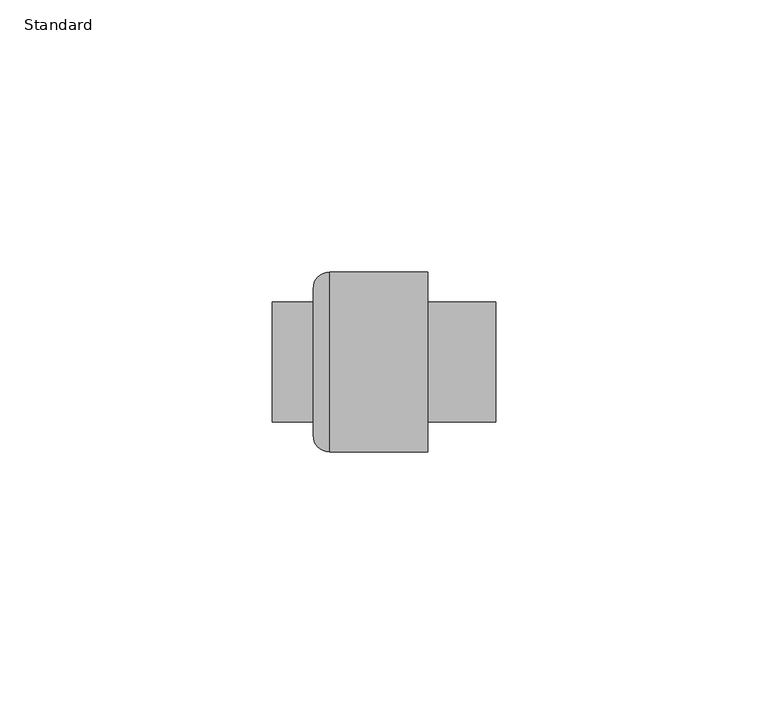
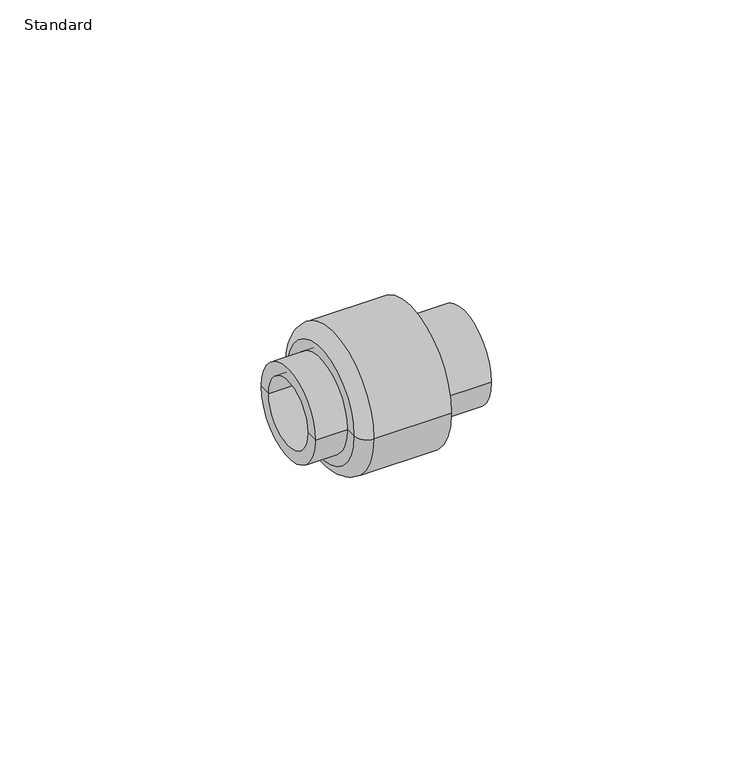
"""IFC4 building model written with IfcOpenShell, lengths in millimetres: pipe fitting geometry, Durapipe_PipeFitting_PVC_SocketUnions : Standard."""

from ifc_helpers import new_model, si_unit, point, frame, origin, place, context, project, spatial, polyline, circle_curve, ellipse_curve, trimmed, source, transform, mapped, element, save
from ifc_brep_helpers import plane_surface, cylinder_surface, revolved_surface, advanced_brep


def standard_c68ea25f(model_context):
    return source(origin(), model_context, "Body", "AdvancedBrep", [
        advanced_brep(
        [(-9.0, -11.0, 0.0), (-9.0, 11.0, 0.0), (-9.0, 13.5, 0.0), (-9.0, -13.5, 0.0), (12.0, -16.5, 0.0), (12.0, 16.5, 0.0), (12.0, 11.0, 0.0), (12.0, -11.0, 0.0), (-6.0, -16.5, 0.0), (-6.0, 16.5, 0.0)],
        [
            (0, 1, circle_curve(frame((-9.0, 0.0, 0.0), z_axis=(1.0, 0.0, 0.0), x_axis=(0.0, 1.0, 0.0)), 11.0)),
            (1, 2),
            (2, 3, circle_curve(frame((-9.0, 0.0, 0.0), z_axis=(-1.0, 0.0, 0.0), x_axis=(0.0, 1.0, 0.0)), 13.5)),
            (3, 0),
            (1, 0, circle_curve(frame((-9.0, 0.0, 0.0), z_axis=(1.0, 0.0, 0.0), x_axis=(0.0, 1.0, 0.0)), 11.0)),
            (3, 2, circle_curve(frame((-9.0, 0.0, 0.0), z_axis=(-1.0, 0.0, 0.0), x_axis=(0.0, 1.0, 0.0)), 13.5)),
            (4, 5, circle_curve(frame((12.0, 0.0, 0.0), z_axis=(1.0, 0.0, 0.0), x_axis=(0.0, 1.0, 0.0)), 16.5)),
            (5, 6),
            (6, 7, circle_curve(frame((12.0, 0.0, 0.0), z_axis=(-1.0, 0.0, 0.0), x_axis=(0.0, 1.0, 0.0)), 11.0)),
            (7, 4),
            (5, 4, circle_curve(frame((12.0, 0.0, 0.0), z_axis=(1.0, 0.0, 0.0), x_axis=(0.0, 1.0, 0.0)), 16.5)),
            (7, 6, circle_curve(frame((12.0, 0.0, 0.0), z_axis=(-1.0, 0.0, 0.0), x_axis=(0.0, 1.0, 0.0)), 11.0)),
            (8, 9, circle_curve(frame((-6.0, 0.0, 0.0), z_axis=(1.0, 0.0, 0.0), x_axis=(0.0, 1.0, 0.0)), 16.5)),
            (9, 5),
            (4, 8),
            (9, 8, circle_curve(frame((-6.0, 0.0, 0.0), z_axis=(1.0, 0.0, 0.0), x_axis=(0.0, 1.0, 0.0)), 16.5)),
            (2, 9, circle_curve(frame((-6.0, 13.5, 0.0), z_axis=(0.0, 0.0, -1.0), x_axis=(1.0, 0.0, 0.0)), 3.0)),
            (8, 3, circle_curve(frame((-6.0, -13.5, 0.0), z_axis=(0.0, 0.0, -1.0), x_axis=(1.0, 0.0, 0.0)), 3.0)),
            (6, 1),
            (0, 7),
        ],
        [
            plane_surface(frame((-9.0, 0.0, 0.0), z_axis=(-1.0, 0.0, 0.0), x_axis=(0.0, 1.0, 0.0))),
            plane_surface(frame((12.0, 0.0, 0.0), z_axis=(1.0, 0.0, 0.0), x_axis=(0.0, 1.0, 0.0))),
            cylinder_surface(frame((2000.0, 0.0, 0.0), z_axis=(-1.0, 0.0, 0.0), x_axis=(0.0, 1.0, 0.0)), 16.5),
            revolved_surface(trimmed(ellipse_curve(frame((-6.0, 13.5, 0.0), z_axis=(0.0, 0.0, 1.0), x_axis=(1.0, 0.0, 0.0)), 3.0, 3.0), [point((-6.0, 16.5, 0.0))], [point((-9.0, 13.5, 0.0))], True, "CARTESIAN"), (2000.0, 0.0, 0.0), (-1.0, 0.0, 0.0)),
            revolved_surface(polyline([(-9.0, 11.0, 0.0), (12.0, 11.0, 0.0)]), (2000.0, 0.0, 0.0), (-1.0, 0.0, 0.0)),
        ],
        [
            (0, [[1, 2, 3, 4]]),
            (0, [[5, -4, 6, -2]]),
            (1, [[7, 8, 9, 10]]),
            (1, [[11, -10, 12, -8]]),
            (2, [[13, 14, -7, 15]]),
            (2, [[16, -15, -11, -14]]),
            (3, [[-3, 17, -13, 18]]),
            (3, [[-6, -18, -16, -17]]),
            (4, [[-9, 19, -1, 20]]),
            (4, [[-12, -20, -5, -19]]),
        ],
    ),
        advanced_brep(
        [(-2.5, -8.0, 0.0), (-2.5, 8.0, 0.0), (-16.5, 8.0, 0.0), (-16.5, -8.0, 0.0), (-2.5, 0.0, 0.0), (10.5, -8.0, 0.0), (10.5, 8.0, 0.0), (10.5, 0.0, 0.0), (-16.5, -11.0, 0.0), (-16.5, 11.0, 0.0), (24.5, 11.0, 0.0), (24.5, -11.0, 0.0), (24.5, -8.0, 0.0), (24.5, 8.0, 0.0)],
        [
            (0, 1, circle_curve(frame((-2.5, 0.0, 0.0), z_axis=(1.0, 0.0, 0.0), x_axis=(0.0, 1.0, 0.0)), 8.0)),
            (1, 2),
            (2, 3, circle_curve(frame((-16.5, 0.0, 0.0), z_axis=(-1.0, 0.0, 0.0), x_axis=(0.0, 1.0, 0.0)), 8.0)),
            (3, 0),
            (1, 0, circle_curve(frame((-2.5, 0.0, 0.0), z_axis=(1.0, 0.0, 0.0), x_axis=(0.0, 1.0, 0.0)), 8.0)),
            (3, 2, circle_curve(frame((-16.5, 0.0, 0.0), z_axis=(-1.0, 0.0, 0.0), x_axis=(0.0, 1.0, 0.0)), 8.0)),
            (4, 1),
            (0, 4),
            (5, 6, circle_curve(frame((10.5, 0.0, 0.0), z_axis=(1.0, 0.0, 0.0), x_axis=(0.0, 1.0, 0.0)), 8.0)),
            (6, 7),
            (7, 5),
            (6, 5, circle_curve(frame((10.5, 0.0, 0.0), z_axis=(1.0, 0.0, 0.0), x_axis=(0.0, 1.0, 0.0)), 8.0)),
            (8, 9, circle_curve(frame((-16.5, 0.0, 0.0), z_axis=(1.0, 0.0, 0.0), x_axis=(0.0, 1.0, 0.0)), 11.0)),
            (9, 10),
            (10, 11, circle_curve(frame((24.5, 0.0, 0.0), z_axis=(-1.0, 0.0, 0.0), x_axis=(0.0, 1.0, 0.0)), 11.0)),
            (11, 8),
            (9, 8, circle_curve(frame((-16.5, 0.0, 0.0), z_axis=(1.0, 0.0, 0.0), x_axis=(0.0, 1.0, 0.0)), 11.0)),
            (11, 10, circle_curve(frame((24.5, 0.0, 0.0), z_axis=(-1.0, 0.0, 0.0), x_axis=(0.0, 1.0, 0.0)), 11.0)),
            (2, 9),
            (8, 3),
            (12, 13, circle_curve(frame((24.5, 0.0, 0.0), z_axis=(1.0, 0.0, 0.0), x_axis=(0.0, 1.0, 0.0)), 8.0)),
            (13, 6),
            (5, 12),
            (13, 12, circle_curve(frame((24.5, 0.0, 0.0), z_axis=(1.0, 0.0, 0.0), x_axis=(0.0, 1.0, 0.0)), 8.0)),
            (10, 13),
            (12, 11),
        ],
        [
            revolved_surface(polyline([(-16.5, 8.0, 0.0), (-2.5, 8.0, 0.0)]), (2000.0, 0.0, 0.0), (-1.0, 0.0, 0.0)),
            plane_surface(frame((-2.5, 0.0, 0.0), z_axis=(-1.0, 0.0, 0.0), x_axis=(0.0, 1.0, 0.0))),
            plane_surface(frame((10.5, 0.0, 0.0), z_axis=(1.0, 0.0, 0.0), x_axis=(0.0, 1.0, 0.0))),
            cylinder_surface(frame((2000.0, 0.0, 0.0), z_axis=(-1.0, 0.0, 0.0), x_axis=(0.0, 1.0, 0.0)), 11.0),
            plane_surface(frame((-16.5, 0.0, 0.0), z_axis=(-1.0, 0.0, 0.0), x_axis=(0.0, 1.0, 0.0))),
            revolved_surface(polyline([(10.5, 8.0, 0.0), (24.5, 8.0, 0.0)]), (2000.0, 0.0, 0.0), (-1.0, 0.0, 0.0)),
            plane_surface(frame((24.5, 0.0, 0.0), z_axis=(1.0, 0.0, 0.0), x_axis=(0.0, 1.0, 0.0))),
        ],
        [
            (0, [[1, 2, 3, 4]]),
            (0, [[5, -4, 6, -2]]),
            (1, [[7, -1, 8]]),
            (1, [[-8, -5, -7]]),
            (2, [[9, 10, 11]]),
            (2, [[12, -11, -10]]),
            (3, [[13, 14, 15, 16]]),
            (3, [[17, -16, 18, -14]]),
            (4, [[-3, 19, -13, 20]]),
            (4, [[-6, -20, -17, -19]]),
            (5, [[21, 22, -9, 23]]),
            (5, [[24, -23, -12, -22]]),
            (6, [[-15, 25, -21, 26]]),
            (6, [[-18, -26, -24, -25]]),
        ],
    ),
    ])


if __name__ == "__main__":
    model = new_model("IFC4")
    model_context = context("Model", 3, world=origin())
    ifc_project = project(units=[si_unit("LENGTHUNIT", "METRE", prefix="MILLI")], contexts=[model_context])
    site = spatial("IfcSite", under=ifc_project)
    building = spatial("IfcBuilding", under=site)
    placement = place(None, origin())
    standard_shape = standard_c68ea25f(model_context)
    element("IfcPipeFitting", 1, ObjectType="Durapipe_PipeFitting_PVC_SocketUnions : Standard", at=placement, inside=building, context=model_context, shape_type="MappedRepresentation", body=[
        mapped(standard_shape, transform((0.0, 0.0, 0.0), x_axis=(1.0, 0.0, 0.0), y_axis=(0.0, 1.0, 0.0), z_axis=(0.0, 0.0, 1.0))),
    ])
    save(model, "model.ifc")
